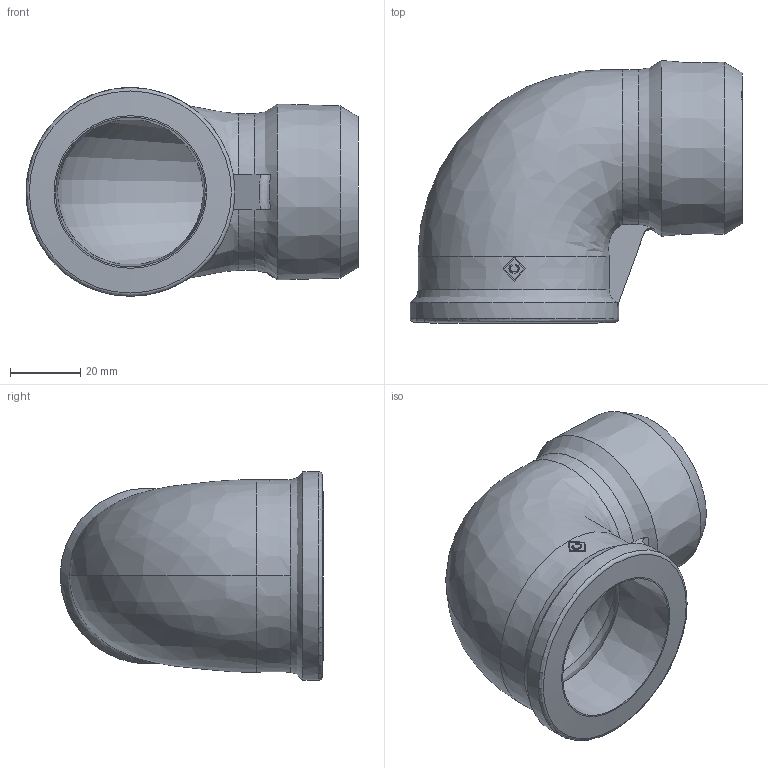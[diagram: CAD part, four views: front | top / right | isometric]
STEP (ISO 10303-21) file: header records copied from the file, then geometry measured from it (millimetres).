
FILE_DESCRIPTION((''),'2;1');
FILE_NAME('P:\Fastrack\53909_CRANE\Crane\Fig.152 M and F Elbow\New 1.50 inch\152-1.50.stp','2009-09-16T09:48:10',('btaylor'),(''),'Autodesk Inventor 2008','Autodesk Inventor 2008','');
FILE_SCHEMA(('AUTOMOTIVE_DESIGN { 1 0 10303 214 1 1 1 1 }'));
Length unit declared in the file: millimetre
Products named in the file (1): 152-1.50
Bounding box: 94.8 x 75.07 x 59.6 mm (x, y, z)
Volume: 75426 mm3; surface area: 31665.9 mm2
Topology: 1 solids, 1 shells, 44 faces, 150 edges, 110 vertices
Faces by surface type: bspline 24, plane 14, cone 4, torus 1, cylinder 1
Full cylindrical faces by diameter (mm): 59.6 x1
Entity records: 6226 total; most frequent: CARTESIAN_POINT 5120, ORIENTED_EDGE 286, EDGE_CURVE 143, DIRECTION 118, VERTEX_POINT 109, B_SPLINE_CURVE_WITH_KNOTS 94, EDGE_LOOP 54, AXIS2_PLACEMENT_3D 48
